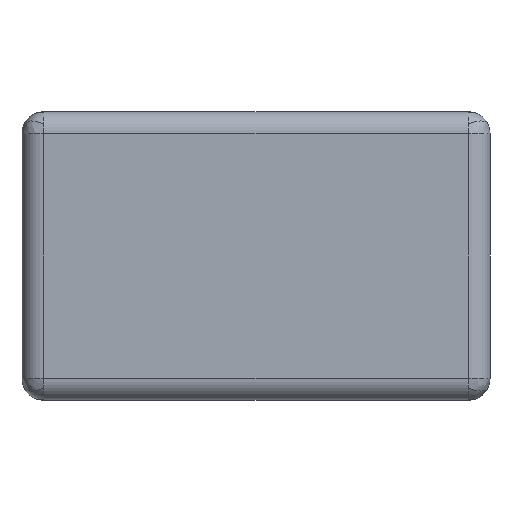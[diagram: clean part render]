
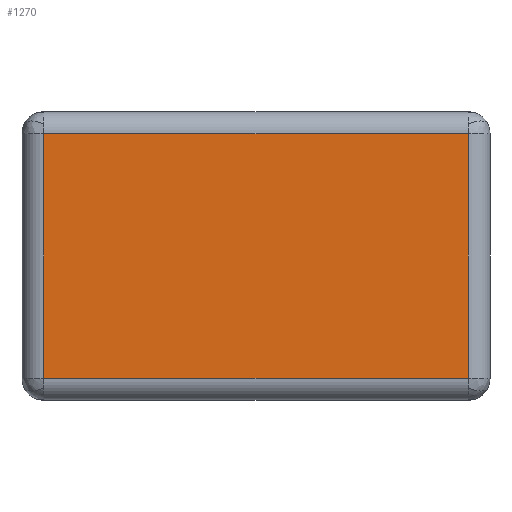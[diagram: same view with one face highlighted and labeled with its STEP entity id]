
A CAD part, front view. The second image highlights one B-rep face of the part: STEP entity #1270.
In plain terms, the highlighted planar face has unit normal (0, -1, 0).
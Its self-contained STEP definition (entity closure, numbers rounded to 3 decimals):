
#208 = VERTEX_POINT ( 'NONE', #408 ) ;
#408 = CARTESIAN_POINT ( 'NONE',  ( 39., 0., 22.5 ) ) ;
#686 = LINE ( 'NONE', #4011, #2080 ) ;
#829 = CARTESIAN_POINT ( 'NONE',  ( -39., 0., -22.5 ) ) ;
#1236 = CARTESIAN_POINT ( 'NONE',  ( -39., 0., 22.5 ) ) ;
#1270 = ADVANCED_FACE ( 'NONE', ( #4633 ), #4338, .F. ) ;
#1334 = LINE ( 'NONE', #2240, #2519 ) ;
#1771 = DIRECTION ( 'NONE',  ( 0., 1., 0. ) ) ;
#1839 = VECTOR ( 'NONE', #1902, 1000. ) ;
#1902 = DIRECTION ( 'NONE',  ( -1., 0., 0. ) ) ;
#2051 = CARTESIAN_POINT ( 'NONE',  ( 39., 0., -22.5 ) ) ;
#2080 = VECTOR ( 'NONE', #2372, 1000. ) ;
#2240 = CARTESIAN_POINT ( 'NONE',  ( 0., 0., 22.5 ) ) ;
#2372 = DIRECTION ( 'NONE',  ( 0., 0., -1. ) ) ;
#2396 = VERTEX_POINT ( 'NONE', #829 ) ;
#2494 = ORIENTED_EDGE ( 'NONE', *, *, #4080, .F. ) ;
#2519 = VECTOR ( 'NONE', #5047, 1000. ) ;
#2552 = LINE ( 'NONE', #4184, #4695 ) ;
#2591 = EDGE_LOOP ( 'NONE', ( #4574, #2494, #4326, #3505 ) ) ;
#2623 = VERTEX_POINT ( 'NONE', #2051 ) ;
#2832 = CARTESIAN_POINT ( 'NONE',  ( 0., 0., 0. ) ) ;
#3026 = DIRECTION ( 'NONE',  ( 0., 0., 1. ) ) ;
#3338 = VERTEX_POINT ( 'NONE', #1236 ) ;
#3505 = ORIENTED_EDGE ( 'NONE', *, *, #5218, .F. ) ;
#3909 = EDGE_CURVE ( 'NONE', #3338, #208, #1334, .T. ) ;
#3985 = LINE ( 'NONE', #4714, #1839 ) ;
#4011 = CARTESIAN_POINT ( 'NONE',  ( 39., 0., 0. ) ) ;
#4080 = EDGE_CURVE ( 'NONE', #208, #2623, #686, .T. ) ;
#4184 = CARTESIAN_POINT ( 'NONE',  ( -39., 0., 0. ) ) ;
#4326 = ORIENTED_EDGE ( 'NONE', *, *, #3909, .F. ) ;
#4338 = PLANE ( 'NONE',  #4359 ) ;
#4359 = AXIS2_PLACEMENT_3D ( 'NONE', #2832, #1771, #3026 ) ;
#4509 = EDGE_CURVE ( 'NONE', #2623, #2396, #3985, .T. ) ;
#4574 = ORIENTED_EDGE ( 'NONE', *, *, #4509, .F. ) ;
#4633 = FACE_OUTER_BOUND ( 'NONE', #2591, .T. ) ;
#4695 = VECTOR ( 'NONE', #4988, 1000. ) ;
#4714 = CARTESIAN_POINT ( 'NONE',  ( 0., 0., -22.5 ) ) ;
#4988 = DIRECTION ( 'NONE',  ( 0., 0., 1. ) ) ;
#5047 = DIRECTION ( 'NONE',  ( 1., 0., 0. ) ) ;
#5218 = EDGE_CURVE ( 'NONE', #2396, #3338, #2552, .T. ) ;
